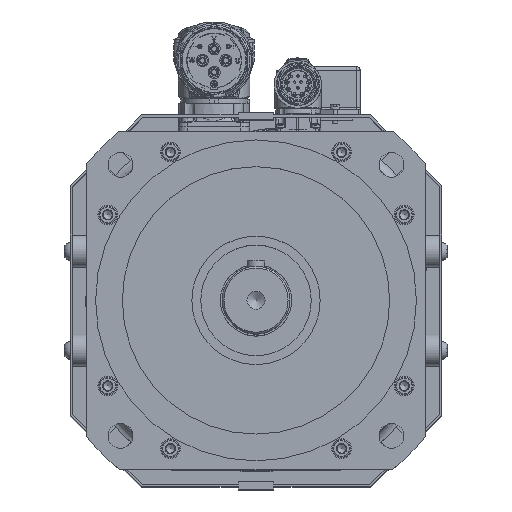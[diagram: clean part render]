
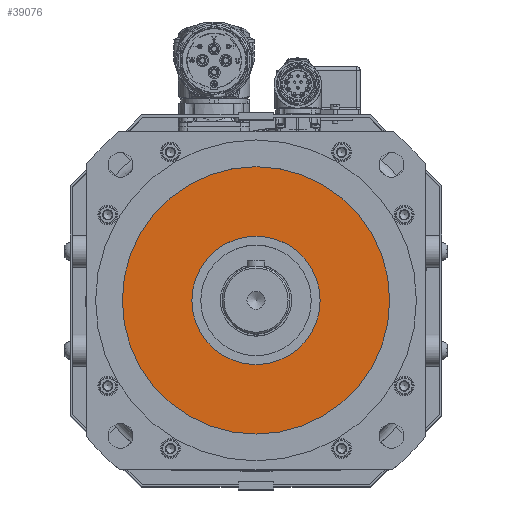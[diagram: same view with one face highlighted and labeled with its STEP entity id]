
A CAD part, top view. The second image highlights one B-rep face of the part: STEP entity #39076.
In plain terms, the highlighted planar face has unit normal (0, 0, 1).
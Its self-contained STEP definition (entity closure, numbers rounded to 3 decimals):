
#9220=FACE_BOUND('',#12638,.T.);
#9221=FACE_BOUND('',#12639,.T.);
#12638=EDGE_LOOP('',(#27108));
#12639=EDGE_LOOP('',(#27109));
#16004=CIRCLE('',#41678,36.);
#16005=CIRCLE('',#41681,75.);
#17898=VERTEX_POINT('',#56891);
#17899=VERTEX_POINT('',#56895);
#21676=EDGE_CURVE('',#17898,#17898,#16004,.T.);
#21677=EDGE_CURVE('',#17899,#17899,#16005,.T.);
#27108=ORIENTED_EDGE('',*,*,#21676,.T.);
#27109=ORIENTED_EDGE('',*,*,#21677,.F.);
#37971=PLANE('',#41683);
#39076=ADVANCED_FACE('',(#9220,#9221),#37971,.F.);
#41678=AXIS2_PLACEMENT_3D('',#56892,#46068,#46069);
#41681=AXIS2_PLACEMENT_3D('',#56896,#46074,#46075);
#41683=AXIS2_PLACEMENT_3D('',#56899,#46078,#46079);
#46068=DIRECTION('center_axis',(0.,0.,-1.));
#46069=DIRECTION('ref_axis',(-1.,0.,0.));
#46074=DIRECTION('center_axis',(0.,0.,-1.));
#46075=DIRECTION('ref_axis',(-1.,0.,0.));
#46078=DIRECTION('center_axis',(0.,0.,-1.));
#46079=DIRECTION('ref_axis',(-1.,0.,0.));
#56891=CARTESIAN_POINT('',(36.,0.,15.));
#56892=CARTESIAN_POINT('Origin',(0.,0.,15.));
#56895=CARTESIAN_POINT('',(75.,0.,15.));
#56896=CARTESIAN_POINT('Origin',(0.,0.,15.));
#56899=CARTESIAN_POINT('Origin',(0.,0.,15.));
